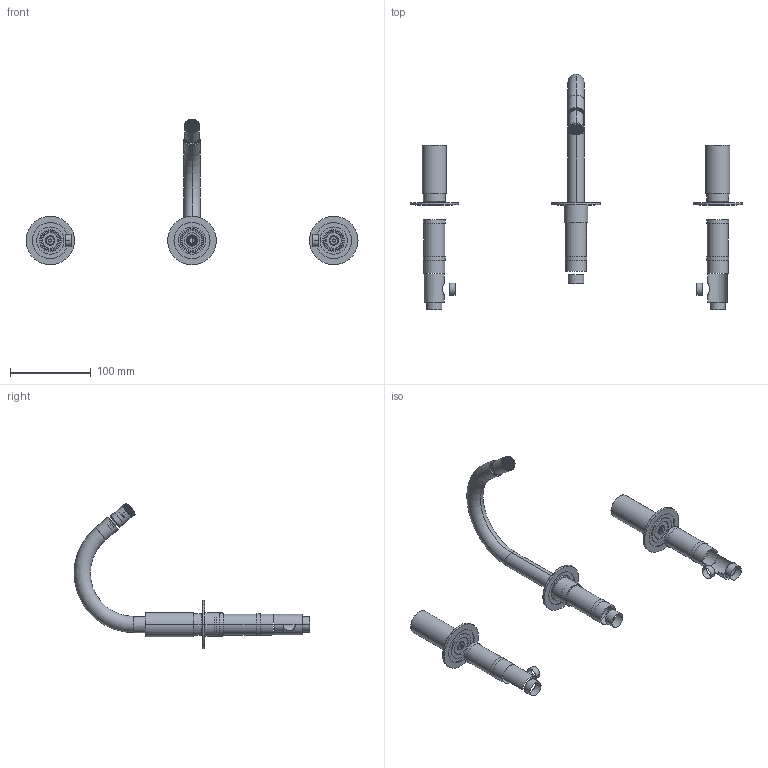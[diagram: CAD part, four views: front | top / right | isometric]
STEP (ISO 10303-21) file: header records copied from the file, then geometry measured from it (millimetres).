
FILE_DESCRIPTION((''),'2;1');
FILE_NAME('12104NP_ASM','2026-10-12T11:04:08',('carloff'),(''),'CREO PARAMETRIC BY PTC INC, 2022014','CREO PARAMETRIC BY PTC INC, 2022014','');
FILE_SCHEMA(('CONFIG_CONTROL_DESIGN'));
Length unit declared in the file: millimetre
Products named in the file (45): D506C70040_AF0; D524C90012_AF0; A537C20023_AF0; D514C90076; P506C70056_AF0_ASM; D506C70040_AF1; D524C90012_AF1; A537C20023_AF1; P506C70056_AF1_ASM; D451C90341_AF0; D517C90597_AF0; D462C20443; D524C90071_AF0; D492C90065_AF0; A526000017; MANIFOLD_SOLID_BREP-49113_; MANIFOLD_SOLID_BREP-97_; A450000073_ASM; P462000458_AF0_ASM; A517C20601_AF0; D482C90038_AF0; D482C90038_AF1; D482C90038_AF2; A518A80006_AF0; A518A80006_AF1; A518A80006_AF2; A496B60108_AF0; A496B60108_AF1; A496B60108_AF2; D496B60195_AF0; D496B60195_AF1; D496B60195_AF2; A496E40119_AF0; A496E40119_AF1; P765XX0429_AF0_ASM; A488A80123_AF0; A488A80123_AF1; D523C90132_AF0; D523C90132_AF1; D499190015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
Assembly tree (49 placements, depth 4):
  12104NP_ASM
    P506C70056_AF0_ASM
      D506C70040_AF0
      D524C90012_AF0
      A537C20023_AF0
      D514C90076
    P506C70056_AF1_ASM
      D506C70040_AF1
      D524C90012_AF1
      A537C20023_AF1
      D514C90076
    P462000458_AF0_ASM
      D451C90341_AF0
      D517C90597_AF0
      D462C20443
      D524C90071_AF0
      D492C90065_AF0
      A526000017
      A450000073_ASM
        MANIFOLD_SOLID_BREP-49113_
        MANIFOLD_SOLID_BREP-97_
    A517C20601_AF0
    P765XX0429_AF0_ASM
      D482C90038_AF0
      D482C90038_AF1
      D482C90038_AF2
      A518A80006_AF0
      A518A80006_AF1
      A518A80006_AF2
      A496B60108_AF0
      A496B60108_AF1
      A496B60108_AF2
      D496B60195_AF0
      D496B60195_AF1
      D496B60195_AF2
      A496E40119_AF0
      A496E40119_AF1
    A488A80123_AF0
    A488A80123_AF1
    P765NP0432_AF0_ASM
      D523C90132_AF0
      D523C90132_AF1
      D499190015_ASM  x2
        D499190015
        D505C90071
      D514C90076  x2
      A536A80150  x2
Bounding box: 410 x 291.05 x 179.89 mm (x, y, z)
Volume: 153785.1 mm3; surface area: 117498.8 mm2
Topology: 21 solids, 50 shells, 3509 faces, 9838 edges, 6436 vertices
Faces by surface type: plane 2208, cylinder 571, torus 415, cone 188, bspline 117, sphere 10
Entity records: 119619 total; most frequent: CARTESIAN_POINT 41683, ORIENTED_EDGE 17734, DIRECTION 13704, EDGE_CURVE 8926, VERTEX_POINT 5873, AXIS2_PLACEMENT_3D 5105, EDGE_LOOP 3543, B_SPLINE_CURVE_WITH_KNOTS 3519
